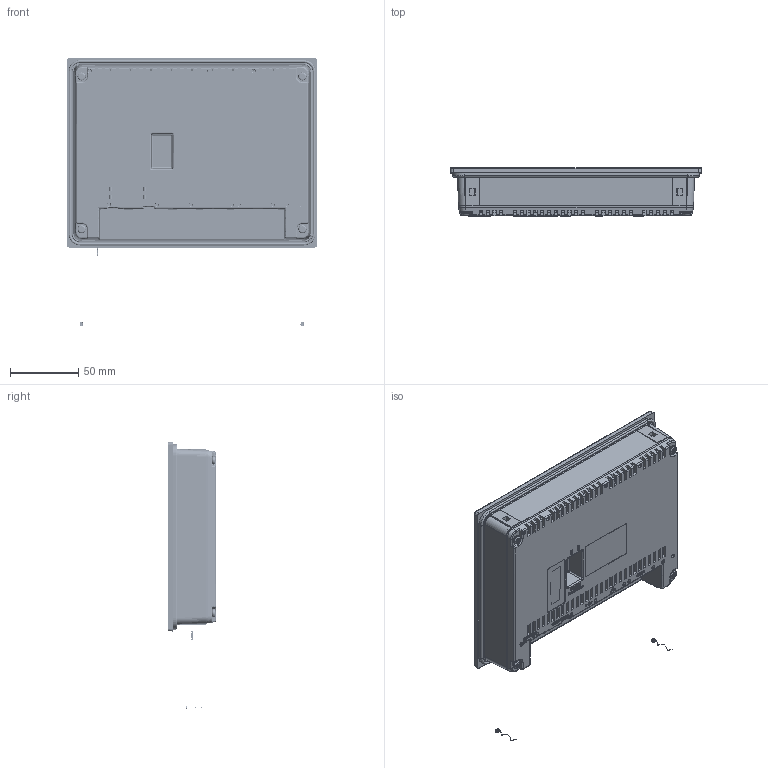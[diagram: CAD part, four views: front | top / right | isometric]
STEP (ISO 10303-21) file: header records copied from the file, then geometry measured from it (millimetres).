
FILE_DESCRIPTION(/* description */ (''),/* implementation_level */ '2;1');
FILE_NAME(/* name */ 'P5070B~1',/* time_stamp */ '2023-05-08T19:30:30+08:00',/* author */ (''),/* organization */ (''),/* preprocessor_version */ 'ST-DEVELOPER v16.5',/* originating_system */ '',/* authorisation */ '');
FILE_SCHEMA (('AUTOMOTIVE_DESIGN'));
Products named in the file (1): Document
Bounding box: 184 x 35.2 x 196.51 mm (x, y, z)
Volume: 111756.1 mm3; surface area: 199173.9 mm2
Topology: 24 solids, 201 shells, 3937 faces, 11457 edges, 7842 vertices
Faces by surface type: plane 2107, bspline 1830
Entity records: 252432 total; most frequent: CARTESIAN_POINT 179406, ORIENTED_EDGE 21755, EDGE_CURVE 11273, B_SPLINE_CURVE_WITH_KNOTS 10159, VERTEX_POINT 7634, EDGE_LOOP 4209, ADVANCED_FACE 3937, FACE_OUTER_BOUND 3937
